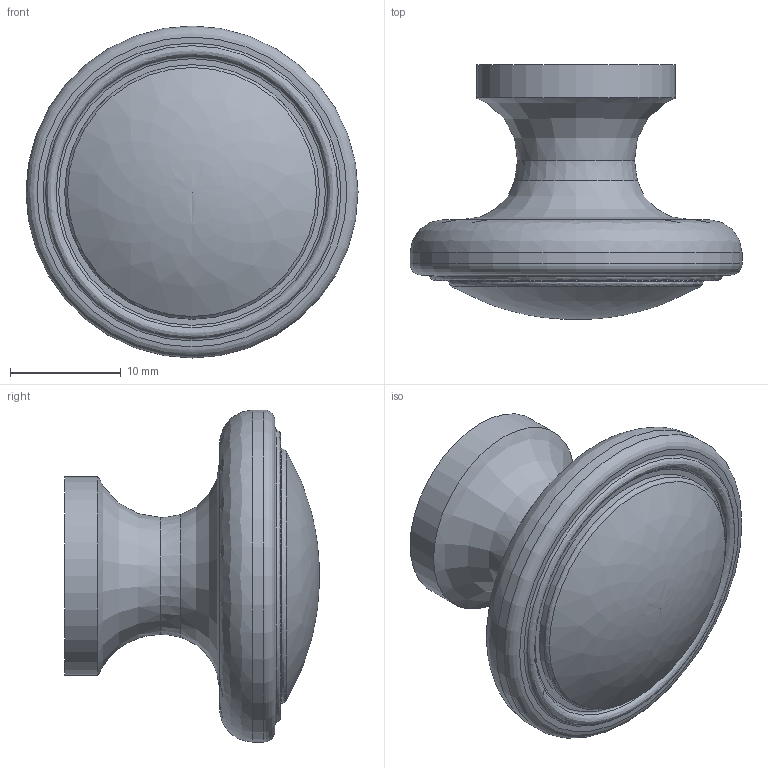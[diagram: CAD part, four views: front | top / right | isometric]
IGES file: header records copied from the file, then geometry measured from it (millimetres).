
Start section: Data from Parasolid IGES Translator 15.0.47, Copyright(c) 2006 Siemens P LM Software. All Rights Reserved.
Global section: file name: 9113367.igs; native system:  By UGS Corp.; preprocessor: XPlus GENERIC/IGES 3.0; author: Noname; organization: Noname; date: 20140122.100443; units: millimetre
Bounding box: 30 x 23 x 30 mm (x, y, z)
Surface area: 2720.1 mm2 (no closed solid volume)
Topology: 0 solids, 0 shells, 19 faces, 65 edges, 47 vertices
Faces by surface type: revolution 14, extrusion 5
